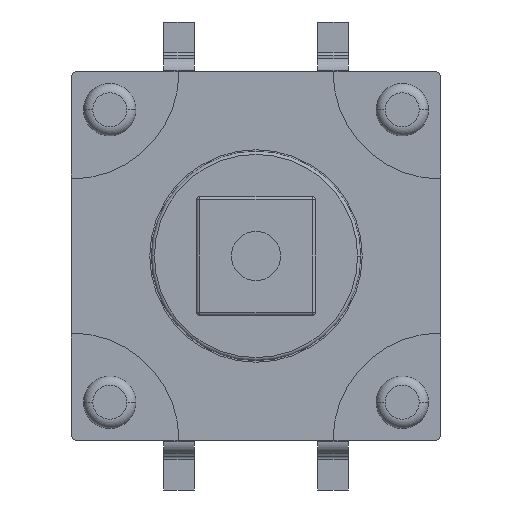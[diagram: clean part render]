
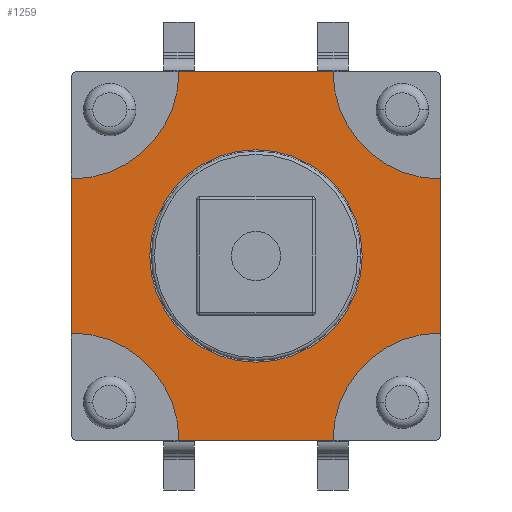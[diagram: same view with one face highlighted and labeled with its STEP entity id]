
A CAD part, front view. The second image highlights one B-rep face of the part: STEP entity #1259.
In plain terms, the highlighted planar face has unit normal (0, -1, 0).
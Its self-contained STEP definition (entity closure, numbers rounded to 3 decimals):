
#290=CARTESIAN_POINT('',(0.,-1.9,0.));
#291=DIRECTION('',(0.,-1.,0.));
#292=DIRECTION('',(-1.,0.,0.));
#293=AXIS2_PLACEMENT_3D('',#290,#291,#292);
#298=CARTESIAN_POINT('',(0.,-1.9,0.));
#299=DIRECTION('',(0.,-1.,0.));
#300=DIRECTION('',(1.,0.,0.));
#301=AXIS2_PLACEMENT_3D('',#298,#299,#300);
#306=DIRECTION('',(-1.,0.,0.));
#307=VECTOR('',#306,5.);
#308=CARTESIAN_POINT('',(2.5,-1.9,-6.));
#309=LINE('',#308,#307);
#313=DIRECTION('',(0.,0.,1.));
#314=VECTOR('',#313,5.);
#315=CARTESIAN_POINT('',(-6.,-1.9,-2.5));
#316=LINE('',#315,#314);
#320=DIRECTION('',(1.,0.,0.));
#321=VECTOR('',#320,5.);
#322=CARTESIAN_POINT('',(-2.5,-1.9,6.));
#323=LINE('',#322,#321);
#327=DIRECTION('',(0.,0.,-1.));
#328=VECTOR('',#327,5.);
#329=CARTESIAN_POINT('',(6.,-1.9,2.5));
#330=LINE('',#329,#328);
#686=CARTESIAN_POINT('',(6.,-1.9,-6.));
#687=DIRECTION('',(0.,1.,0.));
#688=DIRECTION('',(-1.,0.,0.));
#689=AXIS2_PLACEMENT_3D('',#686,#687,#688);
#694=CARTESIAN_POINT('',(6.,-1.9,6.));
#695=DIRECTION('',(0.,1.,0.));
#696=DIRECTION('',(0.,0.,-1.));
#697=AXIS2_PLACEMENT_3D('',#694,#695,#696);
#702=CARTESIAN_POINT('',(-6.,-1.9,6.));
#703=DIRECTION('',(0.,1.,0.));
#704=DIRECTION('',(1.,0.,0.));
#705=AXIS2_PLACEMENT_3D('',#702,#703,#704);
#710=CARTESIAN_POINT('',(-6.,-1.9,-6.));
#711=DIRECTION('',(0.,1.,0.));
#712=DIRECTION('',(0.,0.,1.));
#713=AXIS2_PLACEMENT_3D('',#710,#711,#712);
#946=CARTESIAN_POINT('',(-3.45,-1.9,0.));
#947=CARTESIAN_POINT('',(3.45,-1.9,0.));
#948=VERTEX_POINT('',#946);
#949=VERTEX_POINT('',#947);
#1050=CARTESIAN_POINT('',(2.5,-1.9,-6.));
#1051=VERTEX_POINT('',#1050);
#1052=CARTESIAN_POINT('',(6.,-1.9,-2.5));
#1053=VERTEX_POINT('',#1052);
#1058=CARTESIAN_POINT('',(-6.,-1.9,-2.5));
#1059=VERTEX_POINT('',#1058);
#1060=CARTESIAN_POINT('',(-2.5,-1.9,-6.));
#1061=VERTEX_POINT('',#1060);
#1066=CARTESIAN_POINT('',(-2.5,-1.9,6.));
#1067=VERTEX_POINT('',#1066);
#1068=CARTESIAN_POINT('',(-6.,-1.9,2.5));
#1069=VERTEX_POINT('',#1068);
#1074=CARTESIAN_POINT('',(6.,-1.9,2.5));
#1075=VERTEX_POINT('',#1074);
#1076=CARTESIAN_POINT('',(2.5,-1.9,6.));
#1077=VERTEX_POINT('',#1076);
#1232=CARTESIAN_POINT('',(0.,-1.9,0.));
#1233=DIRECTION('',(0.,1.,0.));
#1234=DIRECTION('',(-1.,0.,0.));
#1235=AXIS2_PLACEMENT_3D('',#1232,#1233,#1234);
#1236=PLANE('',#1235);
#1238=ORIENTED_EDGE('',*,*,#1237,.T.);
#1240=ORIENTED_EDGE('',*,*,#1239,.F.);
#1242=ORIENTED_EDGE('',*,*,#1241,.T.);
#1244=ORIENTED_EDGE('',*,*,#1243,.F.);
#1246=ORIENTED_EDGE('',*,*,#1245,.T.);
#1248=ORIENTED_EDGE('',*,*,#1247,.F.);
#1250=ORIENTED_EDGE('',*,*,#1249,.T.);
#1252=ORIENTED_EDGE('',*,*,#1251,.F.);
#1253=EDGE_LOOP('',(#1238,#1240,#1242,#1244,#1246,#1248,#1250,#1252));
#1254=FACE_OUTER_BOUND('',#1253,.F.);
#1255=ORIENTED_EDGE('',*,*,#1212,.T.);
#1256=ORIENTED_EDGE('',*,*,#1226,.T.);
#1257=EDGE_LOOP('',(#1255,#1256));
#1258=FACE_BOUND('',#1257,.F.);
#294=CIRCLE('',#293,3.45);
#302=CIRCLE('',#301,3.45);
#690=CIRCLE('',#689,3.5);
#698=CIRCLE('',#697,3.5);
#706=CIRCLE('',#705,3.5);
#714=CIRCLE('',#713,3.5);
#1212=EDGE_CURVE('',#948,#949,#294,.T.);
#1226=EDGE_CURVE('',#949,#948,#302,.T.);
#1237=EDGE_CURVE('',#1051,#1061,#309,.T.);
#1239=EDGE_CURVE('',#1059,#1061,#714,.T.);
#1241=EDGE_CURVE('',#1059,#1069,#316,.T.);
#1243=EDGE_CURVE('',#1067,#1069,#706,.T.);
#1245=EDGE_CURVE('',#1067,#1077,#323,.T.);
#1247=EDGE_CURVE('',#1075,#1077,#698,.T.);
#1249=EDGE_CURVE('',#1075,#1053,#330,.T.);
#1251=EDGE_CURVE('',#1051,#1053,#690,.T.);
#1259=ADVANCED_FACE('',(#1254,#1258),#1236,.F.);
